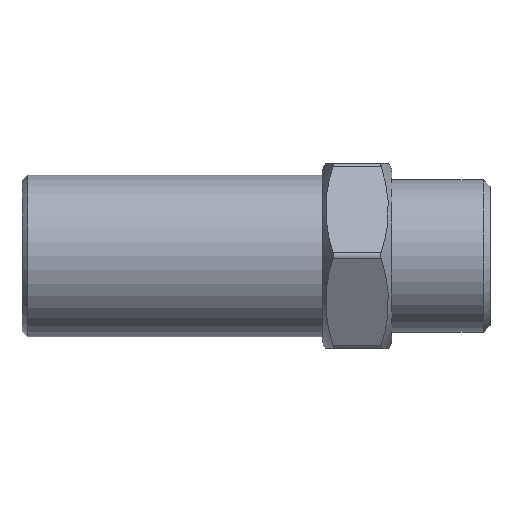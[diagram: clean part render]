
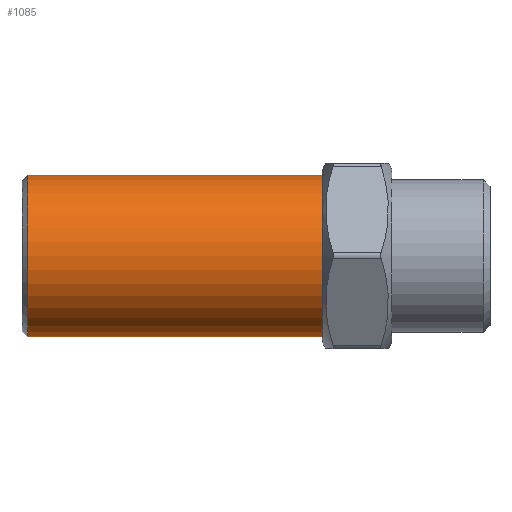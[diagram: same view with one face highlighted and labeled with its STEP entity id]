
A CAD part, top view. The second image highlights one B-rep face of the part: STEP entity #1085.
In plain terms, the highlighted cylindrical face has radius 14 mm (diameter 28 mm), a partial arc.
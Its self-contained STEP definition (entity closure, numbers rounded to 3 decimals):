
#31 = FACE_OUTER_BOUND ( 'NONE', #419, .T. ) ;
#63 = DIRECTION ( 'NONE',  ( 0., -1., 0. ) ) ;
#76 = AXIS2_PLACEMENT_3D ( 'NONE', #187, #781, #441 ) ;
#116 = ORIENTED_EDGE ( 'NONE', *, *, #247, .T. ) ;
#159 = CARTESIAN_POINT ( 'NONE',  ( 0., -14., 0. ) ) ;
#187 = CARTESIAN_POINT ( 'NONE',  ( 0., 0., 0. ) ) ;
#221 = CARTESIAN_POINT ( 'NONE',  ( -52., 0., 0. ) ) ;
#243 = AXIS2_PLACEMENT_3D ( 'NONE', #244, #925, #582 ) ;
#244 = CARTESIAN_POINT ( 'NONE',  ( -51., 0., 0. ) ) ;
#247 = EDGE_CURVE ( 'NONE', #632, #780, #994, .T. ) ;
#254 = CARTESIAN_POINT ( 'NONE',  ( -52., 14., 0. ) ) ;
#256 = LINE ( 'NONE', #651, #399 ) ;
#342 = CARTESIAN_POINT ( 'NONE',  ( 0., 14., 0. ) ) ;
#343 = EDGE_CURVE ( 'NONE', #632, #593, #504, .T. ) ;
#346 = CYLINDRICAL_SURFACE ( 'NONE', #1026, 14. ) ;
#351 = ORIENTED_EDGE ( 'NONE', *, *, #527, .T. ) ;
#399 = VECTOR ( 'NONE', #1071, 1000. ) ;
#419 = EDGE_LOOP ( 'NONE', ( #685, #116, #351, #633 ) ) ;
#441 = DIRECTION ( 'NONE',  ( 0., 1., 0. ) ) ;
#504 = CIRCLE ( 'NONE', #76, 14. ) ;
#506 = VECTOR ( 'NONE', #922, 1000. ) ;
#527 = EDGE_CURVE ( 'NONE', #780, #618, #1044, .T. ) ;
#582 = DIRECTION ( 'NONE',  ( 0., 1., 0. ) ) ;
#593 = VERTEX_POINT ( 'NONE', #159 ) ;
#618 = VERTEX_POINT ( 'NONE', #1020 ) ;
#632 = VERTEX_POINT ( 'NONE', #342 ) ;
#633 = ORIENTED_EDGE ( 'NONE', *, *, #1009, .F. ) ;
#651 = CARTESIAN_POINT ( 'NONE',  ( -52., -14., 0. ) ) ;
#685 = ORIENTED_EDGE ( 'NONE', *, *, #343, .F. ) ;
#780 = VERTEX_POINT ( 'NONE', #875 ) ;
#781 = DIRECTION ( 'NONE',  ( 1., 0., 0. ) ) ;
#875 = CARTESIAN_POINT ( 'NONE',  ( -51., 14., 0. ) ) ;
#922 = DIRECTION ( 'NONE',  ( -1., 0., 0. ) ) ;
#925 = DIRECTION ( 'NONE',  ( 1., 0., 0. ) ) ;
#994 = LINE ( 'NONE', #254, #506 ) ;
#1009 = EDGE_CURVE ( 'NONE', #593, #618, #256, .T. ) ;
#1020 = CARTESIAN_POINT ( 'NONE',  ( -51., -14., 0. ) ) ;
#1026 = AXIS2_PLACEMENT_3D ( 'NONE', #221, #1075, #63 ) ;
#1044 = CIRCLE ( 'NONE', #243, 14. ) ;
#1071 = DIRECTION ( 'NONE',  ( -1., 0., 0. ) ) ;
#1075 = DIRECTION ( 'NONE',  ( -1., 0., 0. ) ) ;
#1085 = ADVANCED_FACE ( 'NONE', ( #31 ), #346, .T. ) ;
